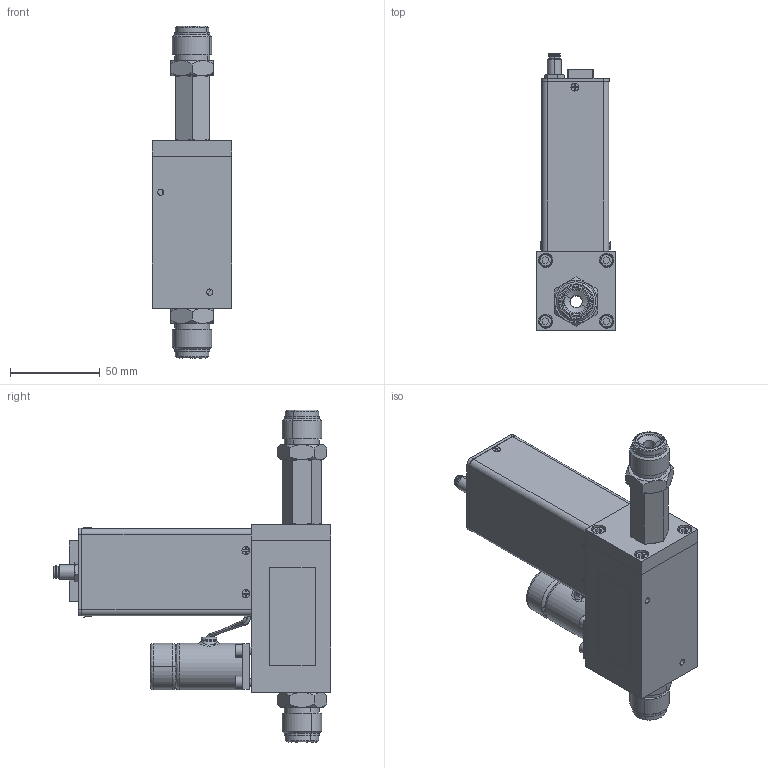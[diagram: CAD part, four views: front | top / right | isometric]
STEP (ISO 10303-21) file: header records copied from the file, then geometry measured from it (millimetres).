
FILE_DESCRIPTION (( 'STEP AP203' ), '1' );
FILE_NAME ('SLA5851-8-L1-1-A-REVB.STEP', '2021-09-07T14:32:49', ( '' ), ( '' ), 'SwSTEP 2.0', 'SolidWorks 2020', '' );
FILE_SCHEMA (( 'CONFIG_CONTROL_DESIGN' ));
Products named in the file (1): SLA5851-8-L1-1-A-REVB
Bounding box: 44.28 x 154.44 x 184.92 mm (x, y, z)
Volume: 103592.8 mm3; surface area: 109751.4 mm2
Topology: 37 solids, 37 shells, 1761 faces, 4622 edges, 2981 vertices
Faces by surface type: plane 1086, cylinder 408, bspline 138, cone 129
Entity records: 59112 total; most frequent: CARTESIAN_POINT 15820, ORIENTED_EDGE 9216, DIRECTION 8616, EDGE_CURVE 4608, LINE 3222, VECTOR 3222, VERTEX_POINT 2981, AXIS2_PLACEMENT_3D 2697
